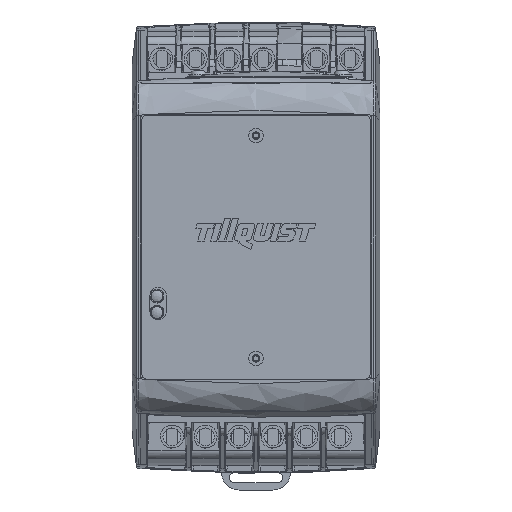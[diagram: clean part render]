
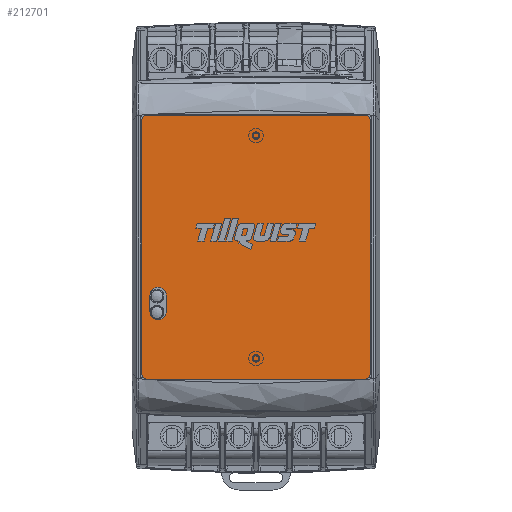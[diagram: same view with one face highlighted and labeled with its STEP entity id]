
A CAD part, top view. The second image highlights one B-rep face of the part: STEP entity #212701.
In plain terms, the highlighted planar face has unit normal (0, 0, 1).
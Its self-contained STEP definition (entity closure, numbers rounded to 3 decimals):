
#1242 = CARTESIAN_POINT ( 'NONE',  ( 32.3, 74.6, 0.1 ) ) ;
#1446 = CARTESIAN_POINT ( 'NONE',  ( 32.3, 0., 0.1 ) ) ;
#3462 = VERTEX_POINT ( 'NONE', #181982 ) ;
#4827 = AXIS2_PLACEMENT_3D ( 'NONE', #239018, #5008, #258799 ) ;
#5008 = DIRECTION ( 'NONE',  ( 0., 0., 1. ) ) ;
#6781 = DIRECTION ( 'NONE',  ( 0., 1., 0. ) ) ;
#8489 = CARTESIAN_POINT ( 'NONE',  ( -30.8, 74.6, 0.1 ) ) ;
#10751 = EDGE_CURVE ( 'NONE', #251011, #26197, #58298, .T. ) ;
#10944 = CIRCLE ( 'NONE', #60556, 1.5 ) ;
#15435 = CARTESIAN_POINT ( 'NONE',  ( -30., 19.1, 0.1 ) ) ;
#16001 = CARTESIAN_POINT ( 'NONE',  ( 0., 0., 0.1 ) ) ;
#16079 = EDGE_CURVE ( 'NONE', #190665, #92005, #139603, .T. ) ;
#17994 = AXIS2_PLACEMENT_3D ( 'NONE', #34699, #208008, #54446 ) ;
#18404 = DIRECTION ( 'NONE',  ( 0., 0., 1. ) ) ;
#18910 = CARTESIAN_POINT ( 'NONE',  ( 30.8, 73.1, 0.1 ) ) ;
#22360 = LINE ( 'NONE', #1242, #213035 ) ;
#23181 = VECTOR ( 'NONE', #210909, 1000. ) ;
#26197 = VERTEX_POINT ( 'NONE', #64629 ) ;
#34699 = CARTESIAN_POINT ( 'NONE',  ( -27.7, 19.1, 0.1 ) ) ;
#35449 = CARTESIAN_POINT ( 'NONE',  ( -25.4, 23.7, 0.1 ) ) ;
#38194 = LINE ( 'NONE', #1446, #183216 ) ;
#39025 = CARTESIAN_POINT ( 'NONE',  ( -25.4, 23.7, 0.1 ) ) ;
#40442 = DIRECTION ( 'NONE',  ( -1., 0., 0. ) ) ;
#40923 = CARTESIAN_POINT ( 'NONE',  ( -32.3, 1.5, 0.1 ) ) ;
#41834 = LINE ( 'NONE', #151792, #44700 ) ;
#44700 = VECTOR ( 'NONE', #254749, 1000. ) ;
#47671 = EDGE_CURVE ( 'NONE', #266967, #65598, #10944, .T. ) ;
#54446 = DIRECTION ( 'NONE',  ( 1., 0., 0. ) ) ;
#55675 = VERTEX_POINT ( 'NONE', #35449 ) ;
#58298 = CIRCLE ( 'NONE', #215815, 1.5 ) ;
#58765 = CARTESIAN_POINT ( 'NONE',  ( -25.4, 19.1, 0.1 ) ) ;
#60556 = AXIS2_PLACEMENT_3D ( 'NONE', #148118, #18404, #77667 ) ;
#64629 = CARTESIAN_POINT ( 'NONE',  ( -32.3, 73.1, 0.1 ) ) ;
#64797 = DIRECTION ( 'NONE',  ( 1., 0., 0. ) ) ;
#65148 = DIRECTION ( 'NONE',  ( 0., 0., 1. ) ) ;
#65598 = VERTEX_POINT ( 'NONE', #109721 ) ;
#67217 = ORIENTED_EDGE ( 'NONE', *, *, #47671, .T. ) ;
#67820 = CIRCLE ( 'NONE', #202874, 1.5 ) ;
#68976 = ORIENTED_EDGE ( 'NONE', *, *, #262436, .T. ) ;
#70043 = VECTOR ( 'NONE', #218270, 1000. ) ;
#72349 = CIRCLE ( 'NONE', #4827, 1.5 ) ;
#77667 = DIRECTION ( 'NONE',  ( -1., 0., 0. ) ) ;
#85805 = EDGE_CURVE ( 'NONE', #55675, #269184, #191547, .T. ) ;
#92005 = VERTEX_POINT ( 'NONE', #58765 ) ;
#94861 = VECTOR ( 'NONE', #40442, 1000. ) ;
#102058 = CARTESIAN_POINT ( 'NONE',  ( 32.3, 73.1, 0.1 ) ) ;
#103321 = EDGE_CURVE ( 'NONE', #269184, #190665, #41834, .T. ) ;
#104896 = DIRECTION ( 'NONE',  ( 0., 0., 1. ) ) ;
#106184 = EDGE_CURVE ( 'NONE', #138984, #251011, #129197, .T. ) ;
#109721 = CARTESIAN_POINT ( 'NONE',  ( 32.3, 1.5, 0.1 ) ) ;
#116222 = FACE_OUTER_BOUND ( 'NONE', #187815, .T. ) ;
#119331 = CARTESIAN_POINT ( 'NONE',  ( -30.8, 73.1, 0.1 ) ) ;
#124981 = VERTEX_POINT ( 'NONE', #40923 ) ;
#129197 = LINE ( 'NONE', #189751, #94861 ) ;
#131436 = CARTESIAN_POINT ( 'NONE',  ( -27.7, 23.7, 0.1 ) ) ;
#132191 = EDGE_CURVE ( 'NONE', #26197, #124981, #180170, .T. ) ;
#138984 = VERTEX_POINT ( 'NONE', #267548 ) ;
#139603 = CIRCLE ( 'NONE', #17994, 2.3 ) ;
#141384 = CARTESIAN_POINT ( 'NONE',  ( -30., 23.7, 0.1 ) ) ;
#147403 = EDGE_CURVE ( 'NONE', #266217, #138984, #67820, .T. ) ;
#148118 = CARTESIAN_POINT ( 'NONE',  ( 30.8, 1.5, 0.1 ) ) ;
#151232 = DIRECTION ( 'NONE',  ( 1., 0., 0. ) ) ;
#151792 = CARTESIAN_POINT ( 'NONE',  ( -30., 23.7, 0.1 ) ) ;
#154438 = ORIENTED_EDGE ( 'NONE', *, *, #251593, .T. ) ;
#164894 = ORIENTED_EDGE ( 'NONE', *, *, #106184, .T. ) ;
#174228 = ORIENTED_EDGE ( 'NONE', *, *, #10751, .T. ) ;
#180170 = LINE ( 'NONE', #245108, #70043 ) ;
#181838 = AXIS2_PLACEMENT_3D ( 'NONE', #16001, #275409, #231638 ) ;
#181982 = CARTESIAN_POINT ( 'NONE',  ( -30.8, 0., 0.1 ) ) ;
#183216 = VECTOR ( 'NONE', #64797, 1000. ) ;
#187815 = EDGE_LOOP ( 'NONE', ( #265852, #154438, #226526, #67217, #68976, #234689, #164894, #174228 ) ) ;
#189751 = CARTESIAN_POINT ( 'NONE',  ( 32.3, 74.6, 0.1 ) ) ;
#190665 = VERTEX_POINT ( 'NONE', #15435 ) ;
#191547 = CIRCLE ( 'NONE', #213886, 2.3 ) ;
#202109 = FACE_BOUND ( 'NONE', #266853, .T. ) ;
#202874 = AXIS2_PLACEMENT_3D ( 'NONE', #18910, #104896, #237374 ) ;
#205762 = EDGE_CURVE ( 'NONE', #3462, #266967, #38194, .T. ) ;
#208008 = DIRECTION ( 'NONE',  ( 0., 0., 1. ) ) ;
#210909 = DIRECTION ( 'NONE',  ( 0., 1., 0. ) ) ;
#211216 = CARTESIAN_POINT ( 'NONE',  ( 30.8, 0., 0.1 ) ) ;
#212701 = ADVANCED_FACE ( 'NONE', ( #116222, #202109 ), #276815, .F. ) ;
#213035 = VECTOR ( 'NONE', #6781, 1000. ) ;
#213886 = AXIS2_PLACEMENT_3D ( 'NONE', #131436, #65148, #151232 ) ;
#215815 = AXIS2_PLACEMENT_3D ( 'NONE', #119331, #271611, #226402 ) ;
#218270 = DIRECTION ( 'NONE',  ( 0., -1., 0. ) ) ;
#226402 = DIRECTION ( 'NONE',  ( -1., 0., 0. ) ) ;
#226526 = ORIENTED_EDGE ( 'NONE', *, *, #205762, .T. ) ;
#230712 = LINE ( 'NONE', #39025, #23181 ) ;
#231638 = DIRECTION ( 'NONE',  ( -1., 0., 0. ) ) ;
#234689 = ORIENTED_EDGE ( 'NONE', *, *, #147403, .T. ) ;
#237374 = DIRECTION ( 'NONE',  ( -1., 0., 0. ) ) ;
#239018 = CARTESIAN_POINT ( 'NONE',  ( -30.8, 1.5, 0.1 ) ) ;
#245108 = CARTESIAN_POINT ( 'NONE',  ( -32.3, 74.6, 0.1 ) ) ;
#245604 = ORIENTED_EDGE ( 'NONE', *, *, #103321, .F. ) ;
#247816 = ORIENTED_EDGE ( 'NONE', *, *, #16079, .F. ) ;
#248240 = ORIENTED_EDGE ( 'NONE', *, *, #259640, .F. ) ;
#251011 = VERTEX_POINT ( 'NONE', #8489 ) ;
#251593 = EDGE_CURVE ( 'NONE', #124981, #3462, #72349, .T. ) ;
#254749 = DIRECTION ( 'NONE',  ( 0., -1., 0. ) ) ;
#257642 = ORIENTED_EDGE ( 'NONE', *, *, #85805, .F. ) ;
#258799 = DIRECTION ( 'NONE',  ( -1., 0., 0. ) ) ;
#259640 = EDGE_CURVE ( 'NONE', #92005, #55675, #230712, .T. ) ;
#262436 = EDGE_CURVE ( 'NONE', #65598, #266217, #22360, .T. ) ;
#265852 = ORIENTED_EDGE ( 'NONE', *, *, #132191, .T. ) ;
#266217 = VERTEX_POINT ( 'NONE', #102058 ) ;
#266853 = EDGE_LOOP ( 'NONE', ( #257642, #248240, #247816, #245604 ) ) ;
#266967 = VERTEX_POINT ( 'NONE', #211216 ) ;
#267548 = CARTESIAN_POINT ( 'NONE',  ( 30.8, 74.6, 0.1 ) ) ;
#269184 = VERTEX_POINT ( 'NONE', #141384 ) ;
#271611 = DIRECTION ( 'NONE',  ( 0., 0., 1. ) ) ;
#275409 = DIRECTION ( 'NONE',  ( 0., 0., -1. ) ) ;
#276815 = PLANE ( 'NONE',  #181838 ) ;
